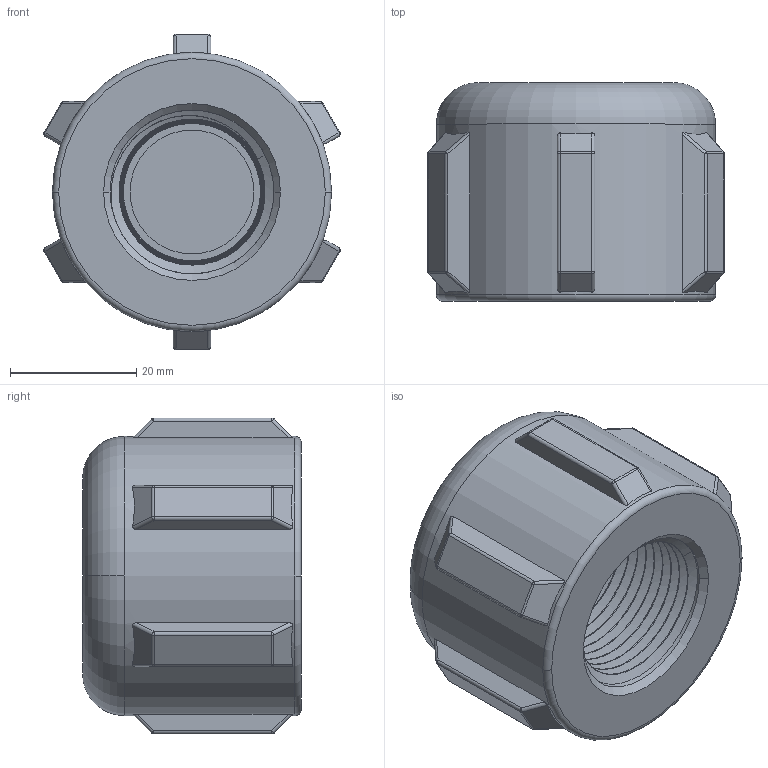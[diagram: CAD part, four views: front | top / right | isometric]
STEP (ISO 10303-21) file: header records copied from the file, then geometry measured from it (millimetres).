
FILE_DESCRIPTION(/* description */ ('Alibre Inc.'),/* implementation_level */ '2;1');
FILE_NAME(/* name */ 'export0',/* time_stamp */ '2019-10-09T09:50:17-04:00',/* author */ (''),/* organization */ (''),/* preprocessor_version */ 'ST-DEVELOPER v17',/* originating_system */ 'Alibre',/* authorisation */ '');
FILE_SCHEMA (('CONFIG_CONTROL_DESIGN'));
Length unit declared in the file: inch
Products named in the file (1): 200-62250-1000C
Bounding box: 46.94 x 34.6 x 50 mm (x, y, z)
Volume: 41724.1 mm3; surface area: 11768.5 mm2
Topology: 1 solids, 1 shells, 160 faces, 382 edges, 216 vertices
Faces by surface type: cylinder 51, plane 36, cone 30, sphere 24, bspline 15, torus 4
Full cylindrical faces by diameter (mm): 44.2 x1
Entity records: 17289 total; most frequent: CARTESIAN_POINT 13965, ORIENTED_EDGE 746, DIRECTION 553, EDGE_CURVE 373, VERTEX_POINT 228, AXIS2_PLACEMENT_3D 223, EDGE_LOOP 173, FACE_BOUND 173
